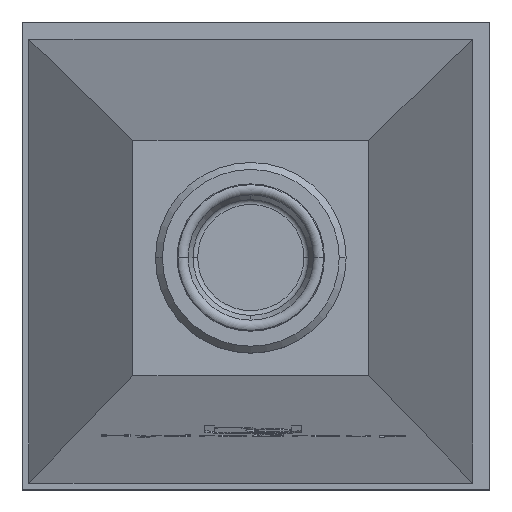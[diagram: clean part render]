
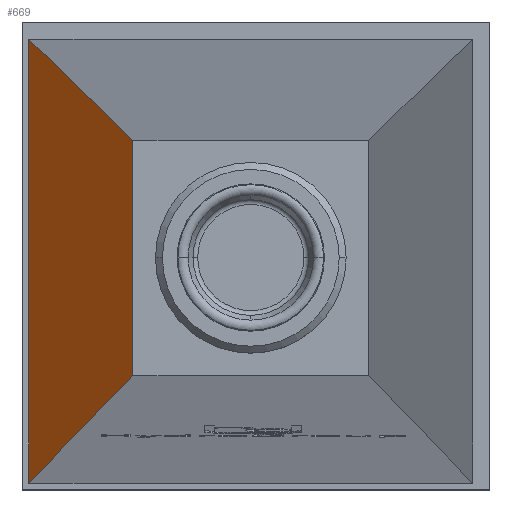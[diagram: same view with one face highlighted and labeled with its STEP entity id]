
A CAD part, top view. The second image highlights one B-rep face of the part: STEP entity #669.
In plain terms, the highlighted planar face has unit normal (-0.999, 0, 0.055).
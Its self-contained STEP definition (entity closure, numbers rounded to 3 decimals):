
#669=ADVANCED_FACE('',(#1366),#1367,.F.);
#1366=FACE_OUTER_BOUND('',#2130,.T.);
#1367=PLANE('',#2131);
#2130=EDGE_LOOP('',(#4150,#4151,#4152,#4153));
#2131=AXIS2_PLACEMENT_3D('',#4154,#4155,#4156);
#4150=ORIENTED_EDGE('',*,*,#5133,.F.);
#4151=ORIENTED_EDGE('',*,*,#4891,.F.);
#4152=ORIENTED_EDGE('',*,*,#5156,.F.);
#4153=ORIENTED_EDGE('',*,*,#5167,.T.);
#4154=CARTESIAN_POINT('',(44.798,135.169,1088.166));
#4155=DIRECTION('',(0.998,0.,-0.055));
#4156=DIRECTION('',(0.,-1.0,0.));
#4891=EDGE_CURVE('',#5900,#5896,#5902,.T.);
#5133=EDGE_CURVE('',#5896,#6220,#6221,.F.);
#5156=EDGE_CURVE('',#6251,#5900,#6253,.T.);
#5167=EDGE_CURVE('',#6251,#6220,#6266,.T.);
#5896=VERTEX_POINT('',#7625);
#5900=VERTEX_POINT('',#7631);
#5902=LINE('',#7634,#7635);
#6220=VERTEX_POINT('',#8212);
#6221=LINE('',#8213,#8214);
#6251=VERTEX_POINT('',#8258);
#6253=LINE('',#8261,#8262);
#6266=LINE('',#8280,#8281);
#7625=CARTESIAN_POINT('',(-15.211,72.165,6.));
#7631=CARTESIAN_POINT('',(44.789,132.165,1088.));
#7634=CARTESIAN_POINT('',(45.006,132.382,1091.914));
#7635=VECTOR('',#8826,1.);
#8212=CARTESIAN_POINT('',(-15.211,328.174,6.));
#8213=CARTESIAN_POINT('',(-15.211,167.669,6.));
#8214=VECTOR('',#8998,1.0);
#8258=CARTESIAN_POINT('',(44.789,268.174,1088.));
#8261=CARTESIAN_POINT('',(44.789,167.669,1088.));
#8262=VECTOR('',#9014,1.0);
#8280=CARTESIAN_POINT('',(45.006,267.957,1091.914));
#8281=VECTOR('',#9020,1.);
#8826=DIRECTION('',(-0.055,-0.055,-0.997));
#8998=DIRECTION('',(0.,-1.0,0.));
#9014=DIRECTION('',(0.,-1.0,0.));
#9020=DIRECTION('',(-0.055,0.055,-0.997));
